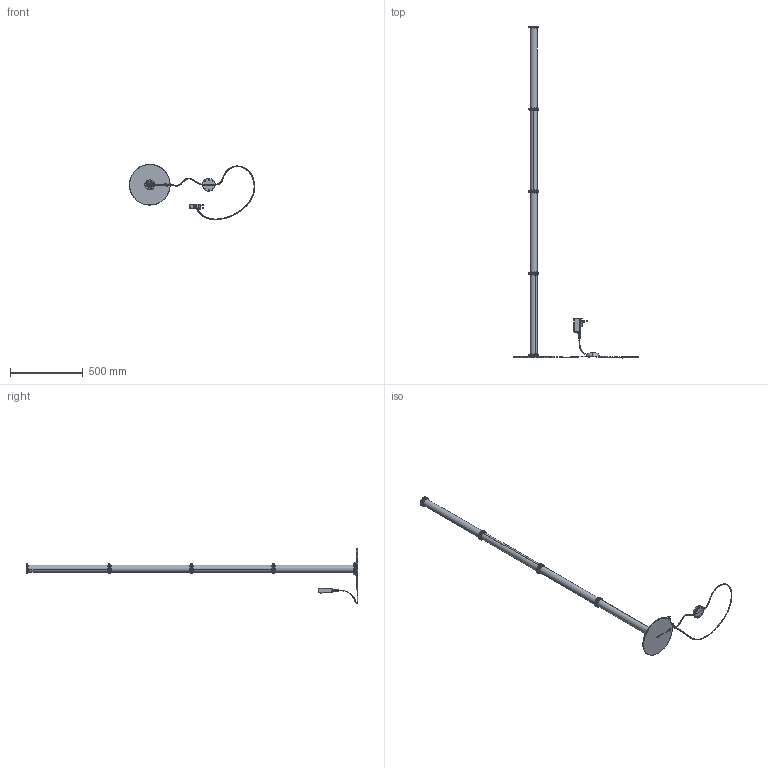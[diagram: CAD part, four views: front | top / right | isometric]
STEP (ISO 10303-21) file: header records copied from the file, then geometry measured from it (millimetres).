
FILE_DESCRIPTION (( 'STEP AP203' ), '1' );
FILE_NAME ('FBN05.LP02.AF01.R00 Render.STEP', '2025-05-05T14:33:59', ( '' ), ( '' ), 'SwSTEP 2.0', 'SolidWorks 2024', '' );
FILE_SCHEMA (( 'CONFIG_CONTROL_DESIGN' ));
Length unit declared in the file: millimetre
Products named in the file (22): FBN05.LP01.C003.R00; FBN05.LP02.C001.R00; FBN05.LS03.C015.R10; UE79 36-24V; M79C_Standard; FBN05.LS04.C009.R10; FBN05.LP01.C001.R00; Alimentatore 60W 24V - Relco; FBN05.LS03.C007.R10; EA Pedaliera Dimmer DMPL_DIMMER TENSIONE 24V 5A NERO COD. DMPL1.T2.BS.4400X.----; FBN05.LP02.AF01.R00 Render; Spina Europa; FBN05.LS03.C006.R10; FBN05.LS03.C014.R10; FBN05.LS03.C003.R10; FBN05.LS04.C008.R10; FBN05.LP01.AM90.R00; FBN05.LS03.C009.R10; FBN05.LS03.C010.R10; FBN05.LS03.C001.R10; FBN05.LP01.C004.R00; FBN05.LP01.C090.R00
Assembly tree (126 placements, depth 4):
  FBN05.LP02.AF01.R00 Render
    FBN05.LP01.C001.R00
    FBN05.LS03.C015.R10  x4
    FBN05.LS03.C009.R10  x6
    FBN05.LS03.C010.R10  x3
    FBN05.LS03.C014.R10  x80
    FBN05.LS03.C001.R10
    FBN05.LS04.C009.R10  x2
    FBN05.LS03.C007.R10  x8
    FBN05.LS04.C008.R10  x2
    FBN05.LS03.C006.R10  x8
    FBN05.LS03.C003.R10
    FBN05.LP02.C001.R00
    FBN05.LP01.C003.R00
    FBN05.LP01.AM90.R00
      FBN05.LP01.C090.R00
      Alimentatore 60W 24V - Relco
        UE79 36-24V
        Spina Europa
        M79C_Standard
      EA Pedaliera Dimmer DMPL_DIMMER TENSIONE 24V 5A NERO COD. DMPL1.T2.BS.4400X.----
    FBN05.LP01.C004.R00
Bounding box: 859.99 x 2279.08 x 379.57 mm (x, y, z)
Volume: 1923525.3 mm3; surface area: 1515174.1 mm2
Topology: 127 solids, 127 shells, 3804 faces, 9340 edges, 5914 vertices
Faces by surface type: cylinder 1596, plane 1204, cone 408, sphere 322, bspline 258, torus 16
Full cylindrical faces by diameter (mm): 10 x1
Entity records: 67423 total; most frequent: CARTESIAN_POINT 28085, ORIENTED_EDGE 7356, DIRECTION 6667, EDGE_CURVE 3678, AXIS2_PLACEMENT_3D 2452, VERTEX_POINT 2395, VECTOR 1763, LINE 1763
